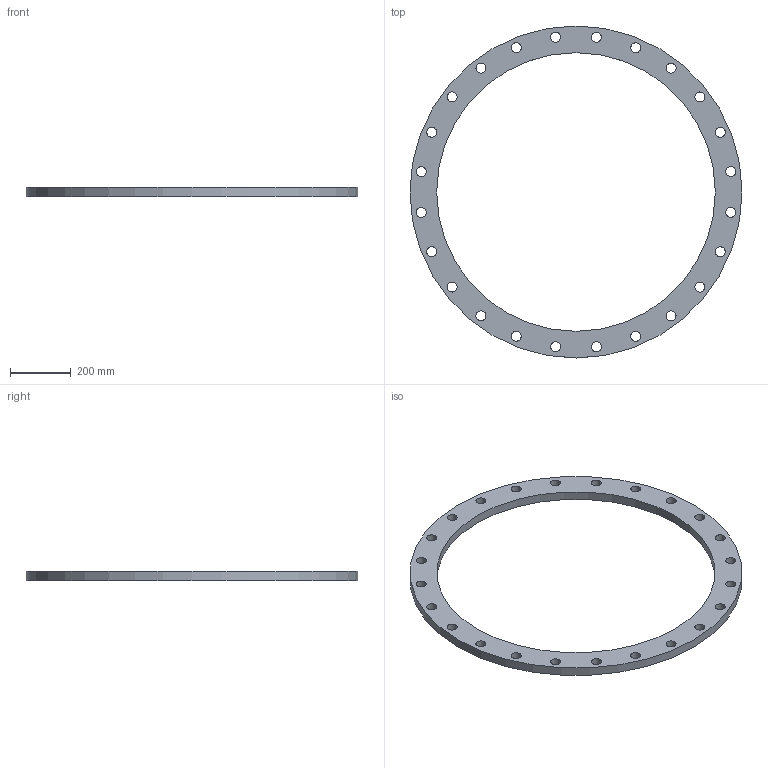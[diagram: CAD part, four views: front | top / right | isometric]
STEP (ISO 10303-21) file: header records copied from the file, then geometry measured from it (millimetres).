
FILE_DESCRIPTION(/* description */ (''),/* implementation_level */ '2;1');
FILE_NAME(/* name */ 'C:\Users\unitec\Documents\Inventor\HP\フランジ\5ksop\5ksop-900.stp',/* time_stamp */ '2016-03-16T15:22:02+09:00',/* author */ ('unitec'),/* organization */ (''),/* preprocessor_version */ 'ST-DEVELOPER v15.2',/* originating_system */ 'Autodesk Inventor 2014',/* authorisation */ '');
FILE_SCHEMA (('AUTOMOTIVE_DESIGN { 1 0 10303 214 3 1 1 }'));
Length unit declared in the file: millimetre
Products named in the file (1): 5ksop-900
Bounding box: 1095 x 1095 x 30 mm (x, y, z)
Volume: 7736046.2 mm3; surface area: 780195.7 mm2
Topology: 1 solids, 1 shells, 28 faces, 78 edges, 52 vertices
Faces by surface type: cylinder 26, plane 2
Full cylindrical faces by diameter (mm): 33 x24, 919 x1, 1095 x1
Entity records: 925 total; most frequent: DIRECTION 162, CARTESIAN_POINT 133, EDGE_LOOP 104, ORIENTED_EDGE 104, AXIS2_PLACEMENT_3D 81, FACE_BOUND 78, CIRCLE 52, VERTEX_POINT 52
